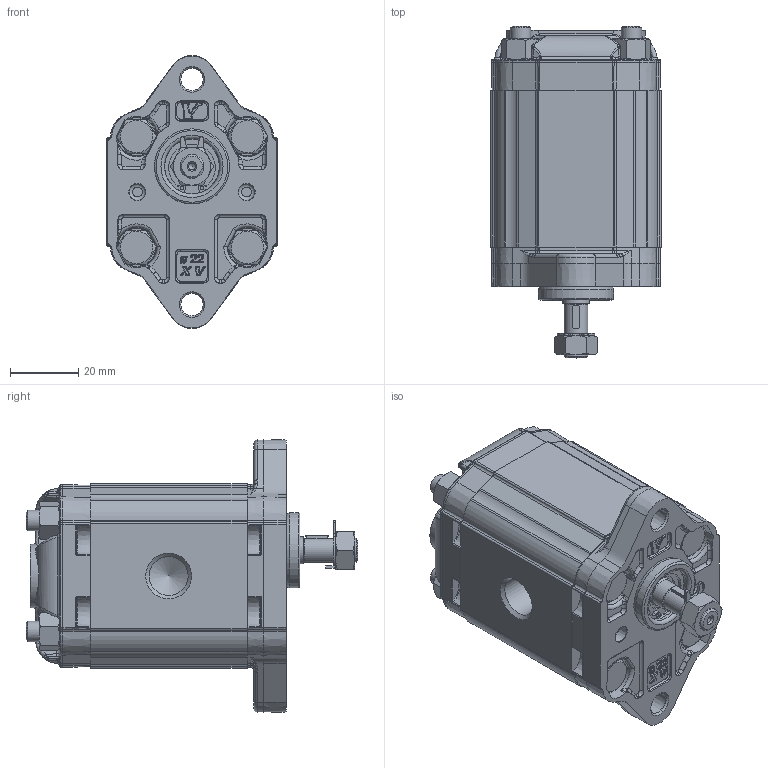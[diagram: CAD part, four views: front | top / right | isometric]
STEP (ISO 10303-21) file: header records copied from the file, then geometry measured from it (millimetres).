
FILE_DESCRIPTION(/* description */ ('Unknown'),/* implementation_level */ '2;1');
FILE_NAME(/* name */ 'X0R1301ABBE',/* time_stamp */ '2026-05-25T16:57:32+02:00',/* author */ ('Unknown'),/* organization */ ('Unknown'),/* preprocessor_version */ 'ST-DEVELOPER v16.7',/* originating_system */ 'Solid Edge',/* authorisation */ 'Unknown');
FILE_SCHEMA (('AUTOMOTIVE_DESIGN {1 0 10303 214 3 1 1}'));
Products named in the file (5): X0R1301ABBE; X0R01; 0A; X0BBH46; XR001-E
Assembly tree (4 placements, depth 2):
  X0R1301ABBE
    X0R01
    0A
    X0BBH46
    XR001-E
Bounding box: 50 x 97.3 x 79.95 mm (x, y, z)
Volume: 166771.8 mm3; surface area: 42946.4 mm2
Topology: 5 solids, 5 shells, 1948 faces, 4786 edges, 2843 vertices
Faces by surface type: cylinder 562, plane 489, bspline 392, cone 285, torus 169, sphere 51
Full cylindrical faces by diameter (mm): 1.053 x2, 2 x1, 6 x8, 6.01 x4, 6.5 x4, 6.518 x4, 6.545 x2, 7 x2, 7.25 x1, 7.5 x2, 7.92 x1, 8 x2, 9.318 x1, 10 x4, 10.445 x1, 11 x1, 11.445 x3, 13 x1, 14 x1, 16 x1, 16.2 x1, 16.8 x1, 22 x1
Entity records: 127284 total; most frequent: CARTESIAN_POINT 71656, ORIENTED_EDGE 9054, DIRECTION 8050, EDGE_CURVE 4527, AXIS2_PLACEMENT_3D 3344, VERTEX_POINT 2775, FACE_BOUND 2202, EDGE_LOOP 2199
